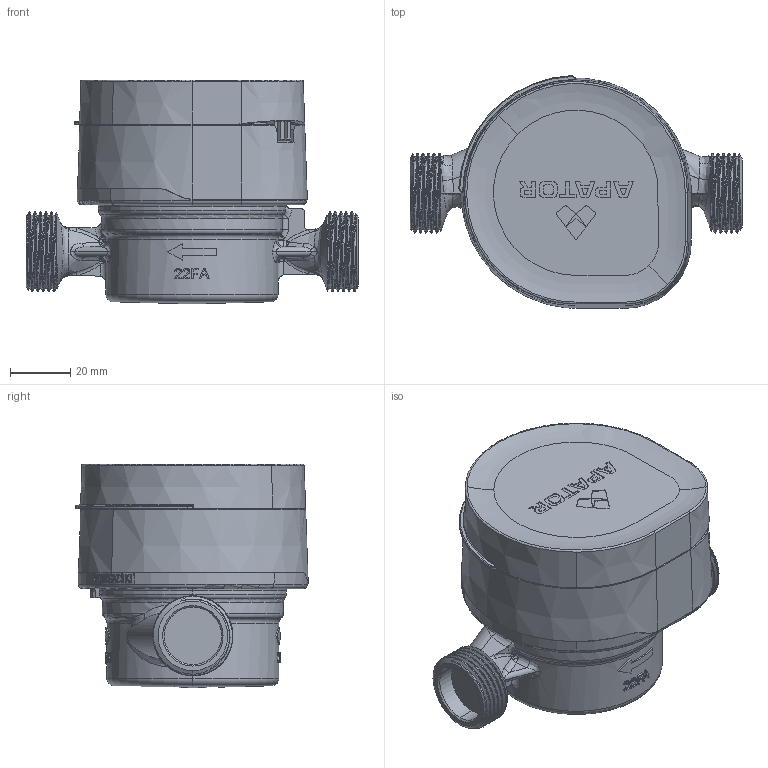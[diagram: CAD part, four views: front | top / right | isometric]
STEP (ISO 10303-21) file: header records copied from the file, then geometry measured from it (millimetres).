
FILE_DESCRIPTION (( 'STEP AP214' ), '1' );
FILE_NAME ('JS1,6-05.STEP', '2022-09-14T10:56:38', ( '' ), ( '' ), 'SwSTEP 2.0', 'SolidWorks 2019', '' );
FILE_SCHEMA (( 'AUTOMOTIVE_DESIGN' ));
Length unit declared in the file: millimetre
Products named in the file (10): 9004-750200; szklanka; 9911-000004; 9004-750201; Liczyd³o; 9911-000003; JS1,6-05; 9911-000002; JS1,6-051; 9004-750202_zagi﹖a
Assembly tree (9 placements, depth 3):
  JS1,6-05
    JS1,6-051
    Liczyd³o
    9911-000002
    szklanka
    9004-750200
      9004-750201
      9004-750202_zagi﹖a
    9911-000003
    9911-000004
Bounding box: 110 x 77.02 x 74.14 mm (x, y, z)
Volume: 241846 mm3; surface area: 96295.4 mm2
Topology: 8 solids, 17 shells, 2522 faces, 6942 edges, 4513 vertices
Faces by surface type: plane 1070, bspline 614, cylinder 469, cone 258, torus 92, sphere 19
Entity records: 148615 total; most frequent: CARTESIAN_POINT 75112, ORIENTED_EDGE 13820, DIRECTION 9891, EDGE_CURVE 6910, VERTEX_POINT 4507, AXIS2_PLACEMENT_3D 3625, EDGE_LOOP 2703, VECTOR 2641
